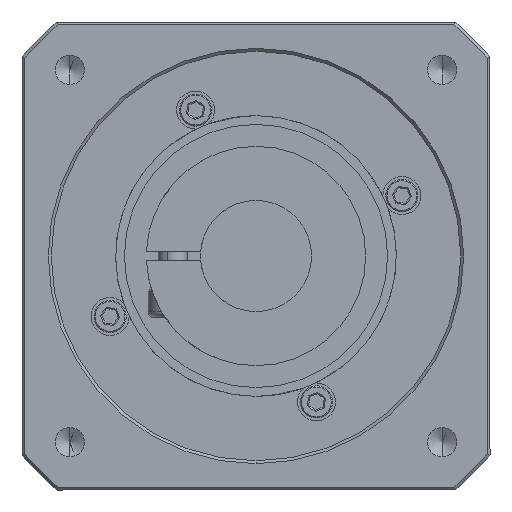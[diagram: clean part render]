
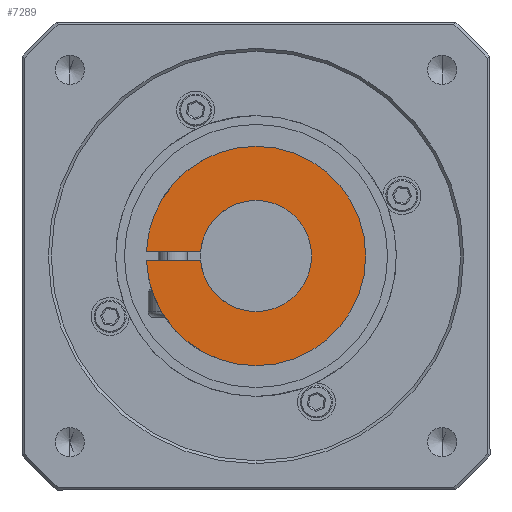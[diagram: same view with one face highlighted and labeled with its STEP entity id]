
A CAD part, front view. The second image highlights one B-rep face of the part: STEP entity #7289.
In plain terms, the highlighted planar face has unit normal (0, -1, 0).
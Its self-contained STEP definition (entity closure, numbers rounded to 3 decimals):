
#104 = EDGE_CURVE ( 'NONE', #144, #155, #5972, .T. ) ;
#119 = VERTEX_POINT ( 'NONE', #6052 ) ;
#136 = EDGE_CURVE ( 'NONE', #155, #119, #5325, .T. ) ;
#144 = VERTEX_POINT ( 'NONE', #5333 ) ;
#155 = VERTEX_POINT ( 'NONE', #3781 ) ;
#193 = EDGE_CURVE ( 'NONE', #119, #324, #3855, .T. ) ;
#324 = VERTEX_POINT ( 'NONE', #4210 ) ;
#1878 = VERTEX_POINT ( 'NONE', #12997 ) ;
#1883 = VERTEX_POINT ( 'NONE', #12996 ) ;
#1886 = VERTEX_POINT ( 'NONE', #13046 ) ;
#1891 = EDGE_CURVE ( 'NONE', #1883, #1913, #12998, .T. ) ;
#1897 = EDGE_CURVE ( 'NONE', #1878, #1886, #12874, .T. ) ;
#1913 = VERTEX_POINT ( 'NONE', #12832 ) ;
#3781 = CARTESIAN_POINT ( 'NONE',  ( 0., 0., -18.75 ) ) ;
#3814 = DIRECTION ( 'NONE',  ( 0., 0., -1. ) ) ;
#3815 = DIRECTION ( 'NONE',  ( 0., -1., 0. ) ) ;
#3837 = CARTESIAN_POINT ( 'NONE',  ( 0., 0., 0. ) ) ;
#3841 = AXIS2_PLACEMENT_3D ( 'NONE', #3837, #3815, #3814 ) ;
#3855 = CIRCLE ( 'NONE', #3841, 18.75 ) ;
#4210 = CARTESIAN_POINT ( 'NONE',  ( -18.735, 0., 0.75 ) ) ;
#5305 = DIRECTION ( 'NONE',  ( 0., 0., -1. ) ) ;
#5306 = DIRECTION ( 'NONE',  ( 0., -1., 0. ) ) ;
#5307 = AXIS2_PLACEMENT_3D ( 'NONE', #5310, #5306, #5305 ) ;
#5310 = CARTESIAN_POINT ( 'NONE',  ( 0., 0., 0. ) ) ;
#5325 = CIRCLE ( 'NONE', #5307, 18.75 ) ;
#5333 = CARTESIAN_POINT ( 'NONE',  ( -18.735, 0., -0.75 ) ) ;
#5625 = DIRECTION ( 'NONE',  ( 0., -1., 0. ) ) ;
#5626 = DIRECTION ( 'NONE',  ( 0., 0., -1. ) ) ;
#5972 = CIRCLE ( 'NONE', #6005, 18.75 ) ;
#6004 = CARTESIAN_POINT ( 'NONE',  ( 0., 0., 0. ) ) ;
#6005 = AXIS2_PLACEMENT_3D ( 'NONE', #6004, #5625, #5626 ) ;
#6052 = CARTESIAN_POINT ( 'NONE',  ( 0., 0., 18.75 ) ) ;
#7011 = ORIENTED_EDGE ( 'NONE', *, *, #7274, .F. ) ;
#7272 = EDGE_CURVE ( 'NONE', #144, #1883, #10785, .T. ) ;
#7273 = ORIENTED_EDGE ( 'NONE', *, *, #104, .T. ) ;
#7274 = EDGE_CURVE ( 'NONE', #1913, #1878, #10792, .T. ) ;
#7289 = ADVANCED_FACE ( 'NONE', ( #10836 ), #10835, .T. ) ;
#7310 = EDGE_LOOP ( 'NONE', ( #7353, #7352, #7011, #7350, #7342, #7273, #7394, #7339 ) ) ;
#7339 = ORIENTED_EDGE ( 'NONE', *, *, #193, .T. ) ;
#7342 = ORIENTED_EDGE ( 'NONE', *, *, #7272, .F. ) ;
#7343 = EDGE_CURVE ( 'NONE', #1886, #324, #10741, .T. ) ;
#7350 = ORIENTED_EDGE ( 'NONE', *, *, #1891, .F. ) ;
#7352 = ORIENTED_EDGE ( 'NONE', *, *, #1897, .F. ) ;
#7353 = ORIENTED_EDGE ( 'NONE', *, *, #7343, .F. ) ;
#7394 = ORIENTED_EDGE ( 'NONE', *, *, #136, .T. ) ;
#10730 = VECTOR ( 'NONE', #10827, 1000. ) ;
#10741 = LINE ( 'NONE', #10828, #10730 ) ;
#10743 = VECTOR ( 'NONE', #10799, 1000. ) ;
#10785 = LINE ( 'NONE', #10832, #10743 ) ;
#10791 = DIRECTION ( 'NONE',  ( 0., 0., -1. ) ) ;
#10792 = CIRCLE ( 'NONE', #10806, 9.5 ) ;
#10799 = DIRECTION ( 'NONE',  ( 1., 0., 0. ) ) ;
#10800 = AXIS2_PLACEMENT_3D ( 'NONE', #10808, #10807, #10791 ) ;
#10806 = AXIS2_PLACEMENT_3D ( 'NONE', #10837, #10831, #10858 ) ;
#10807 = DIRECTION ( 'NONE',  ( 0., -1., 0. ) ) ;
#10808 = CARTESIAN_POINT ( 'NONE',  ( 0., 0., 0. ) ) ;
#10827 = DIRECTION ( 'NONE',  ( -1., 0., 0. ) ) ;
#10828 = CARTESIAN_POINT ( 'NONE',  ( -5.198, 0., 0.75 ) ) ;
#10831 = DIRECTION ( 'NONE',  ( 0., -1., 0. ) ) ;
#10832 = CARTESIAN_POINT ( 'NONE',  ( -5.198, 0., -0.75 ) ) ;
#10835 = PLANE ( 'NONE',  #10800 ) ;
#10836 = FACE_OUTER_BOUND ( 'NONE', #7310, .T. ) ;
#10837 = CARTESIAN_POINT ( 'NONE',  ( 0., 0., 0. ) ) ;
#10858 = DIRECTION ( 'NONE',  ( 0., 0., -1. ) ) ;
#12832 = CARTESIAN_POINT ( 'NONE',  ( 0., 0., -9.5 ) ) ;
#12850 = DIRECTION ( 'NONE',  ( 0., 0., -1. ) ) ;
#12851 = DIRECTION ( 'NONE',  ( 0., -1., 0. ) ) ;
#12868 = AXIS2_PLACEMENT_3D ( 'NONE', #12871, #12851, #12850 ) ;
#12871 = CARTESIAN_POINT ( 'NONE',  ( 0., 0., 0. ) ) ;
#12874 = CIRCLE ( 'NONE', #12868, 9.5 ) ;
#12879 = DIRECTION ( 'NONE',  ( 0., 0., -1. ) ) ;
#12880 = AXIS2_PLACEMENT_3D ( 'NONE', #12884, #13038, #12879 ) ;
#12884 = CARTESIAN_POINT ( 'NONE',  ( 0., 0., 0. ) ) ;
#12996 = CARTESIAN_POINT ( 'NONE',  ( -9.47, 0., -0.75 ) ) ;
#12997 = CARTESIAN_POINT ( 'NONE',  ( 0., 0., 9.5 ) ) ;
#12998 = CIRCLE ( 'NONE', #12880, 9.5 ) ;
#13038 = DIRECTION ( 'NONE',  ( 0., -1., 0. ) ) ;
#13046 = CARTESIAN_POINT ( 'NONE',  ( -9.47, 0., 0.75 ) ) ;
